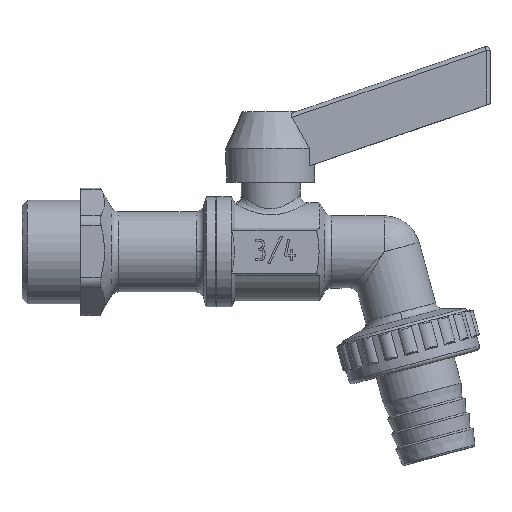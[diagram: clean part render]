
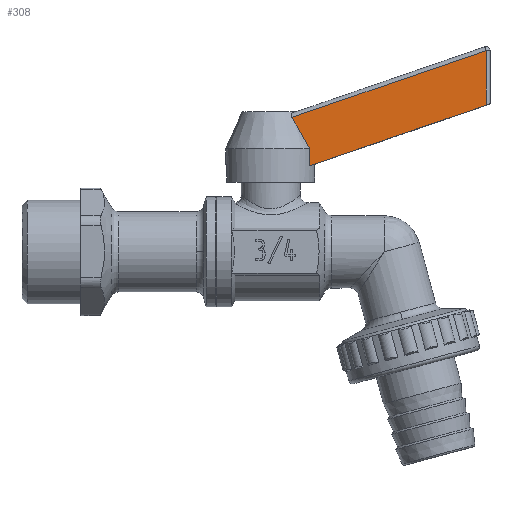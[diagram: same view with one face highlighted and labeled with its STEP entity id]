
A CAD part, top view. The second image highlights one B-rep face of the part: STEP entity #308.
In plain terms, the highlighted planar face has unit normal (0, 0, 1).
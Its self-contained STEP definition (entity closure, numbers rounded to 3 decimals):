
#308=ADVANCED_FACE('',(#2850),#2852,.T.);
#2850=FACE_BOUND('',#2851,.T.);
#2851=EDGE_LOOP('',(#7007,#7008,#7009,#7010,#7011));
#2852=PLANE('',#2853);
#2853=AXIS2_PLACEMENT_3D('',#2854,#2855,#2856);
#2854=CARTESIAN_POINT('',(0.,26.275,5.75));
#2855=DIRECTION('',(0.,0.,1.));
#2856=DIRECTION('',(1.,0.,0.));
#7007=ORIENTED_EDGE('',*,*,#9448,.T.);
#7008=ORIENTED_EDGE('',*,*,#9449,.T.);
#7009=ORIENTED_EDGE('',*,*,#9408,.F.);
#7010=ORIENTED_EDGE('',*,*,#9398,.F.);
#7011=ORIENTED_EDGE('',*,*,#9426,.T.);
#9398=EDGE_CURVE('',#11305,#11307,#11308,.T.);
#9408=EDGE_CURVE('',#11307,#11326,#11327,.F.);
#9426=EDGE_CURVE('',#11305,#11358,#11360,.T.);
#9448=EDGE_CURVE('',#11358,#11399,#11400,.T.);
#9449=EDGE_CURVE('',#11399,#11326,#11401,.T.);
#11305=VERTEX_POINT('',#16990);
#11307=VERTEX_POINT('',#16995);
#11308=LINE('',#16996,#16997);
#11326=VERTEX_POINT('',#17105);
#11327=B_SPLINE_CURVE_WITH_KNOTS('',3,
(#17106,#17107,#17108,#17109,#17110,#17111,#17112,#17113,#17114,#17115,#17116,#17117,
#17118,#17119,#17120,#17121,#17122,#17123,#17124,#17125,#17126,#17127,#17128,#17129,
#17130,#17131,#17132,#17133,#17134,#17135,#17136),
.UNSPECIFIED.,.F.,.F.,
(4,1,1,1,1,1,1,1,1,1,1,1,1,1,1,1,1,1,1,1,1,1,1,1,1,1,1,1,4),
(0.,0.026,0.053,0.08,0.096,
0.108,0.137,0.179,0.222,0.267,
0.304,0.312,0.342,0.383,0.425,
0.47,0.517,0.566,0.567,0.616,
0.668,0.72,0.775,0.83,0.83,
0.886,0.943,0.98,1.),
.UNSPECIFIED.);
#11358=VERTEX_POINT('',#17265);
#11360=LINE('',#17270,#17271);
#11399=VERTEX_POINT('',#17366);
#11400=LINE('',#17367,#17368);
#11401=LINE('',#17370,#17371);
#16990=CARTESIAN_POINT('',(9.959,21.922,5.75));
#16995=CARTESIAN_POINT('',(9.959,26.275,5.75));
#16996=CARTESIAN_POINT('',(9.959,21.922,5.75));
#16997=VECTOR('',#16998,1.);
#16998=DIRECTION('',(0.,1.,0.));
#17105=CARTESIAN_POINT('',(5.429,34.305,5.75));
#17106=CARTESIAN_POINT('',(5.429,34.305,5.75));
#17107=CARTESIAN_POINT('',(5.473,34.238,5.75));
#17108=CARTESIAN_POINT('',(5.561,34.102,5.75));
#17109=CARTESIAN_POINT('',(5.693,33.895,5.75));
#17110=CARTESIAN_POINT('',(5.808,33.713,5.75));
#17111=CARTESIAN_POINT('',(5.899,33.568,5.75));
#17112=CARTESIAN_POINT('',(5.992,33.419,5.75));
#17113=CARTESIAN_POINT('',(6.125,33.202,5.75));
#17114=CARTESIAN_POINT('',(6.308,32.903,5.75));
#17115=CARTESIAN_POINT('',(6.514,32.56,5.75));
#17116=CARTESIAN_POINT('',(6.71,32.229,5.75));
#17117=CARTESIAN_POINT('',(6.85,31.99,5.75));
#17118=CARTESIAN_POINT('',(6.966,31.791,5.75));
#17119=CARTESIAN_POINT('',(7.088,31.58,5.75));
#17120=CARTESIAN_POINT('',(7.26,31.279,5.75));
#17121=CARTESIAN_POINT('',(7.455,30.936,5.75));
#17122=CARTESIAN_POINT('',(7.658,30.576,5.75));
#17123=CARTESIAN_POINT('',(7.868,30.199,5.75));
#17124=CARTESIAN_POINT('',(8.01,29.94,5.75));
#17125=CARTESIAN_POINT('',(8.157,29.674,5.75));
#17126=CARTESIAN_POINT('',(8.307,29.399,5.75));
#17127=CARTESIAN_POINT('',(8.532,28.983,5.75));
#17128=CARTESIAN_POINT('',(8.763,28.554,5.75));
#17129=CARTESIAN_POINT('',(8.997,28.114,5.75));
#17130=CARTESIAN_POINT('',(9.154,27.817,5.75));
#17131=CARTESIAN_POINT('',(9.314,27.515,5.75));
#17132=CARTESIAN_POINT('',(9.475,27.207,5.75));
#17133=CARTESIAN_POINT('',(9.689,26.797,5.75));
#17134=CARTESIAN_POINT('',(9.851,26.486,5.75));
#17135=CARTESIAN_POINT('',(9.931,26.329,5.75));
#17136=CARTESIAN_POINT('',(9.959,26.275,5.75));
#17265=CARTESIAN_POINT('',(55.,37.431,5.75));
#17270=CARTESIAN_POINT('',(9.959,21.922,5.75));
#17271=VECTOR('',#17272,1.);
#17272=DIRECTION('',(0.946,0.326,0.));
#17366=CARTESIAN_POINT('',(55.,51.373,5.75));
#17367=CARTESIAN_POINT('',(55.,37.431,5.75));
#17368=VECTOR('',#17369,1.);
#17369=DIRECTION('',(0.,1.,0.));
#17370=CARTESIAN_POINT('',(55.,51.373,5.75));
#17371=VECTOR('',#17372,1.);
#17372=DIRECTION('',(-0.946,-0.326,0.));
